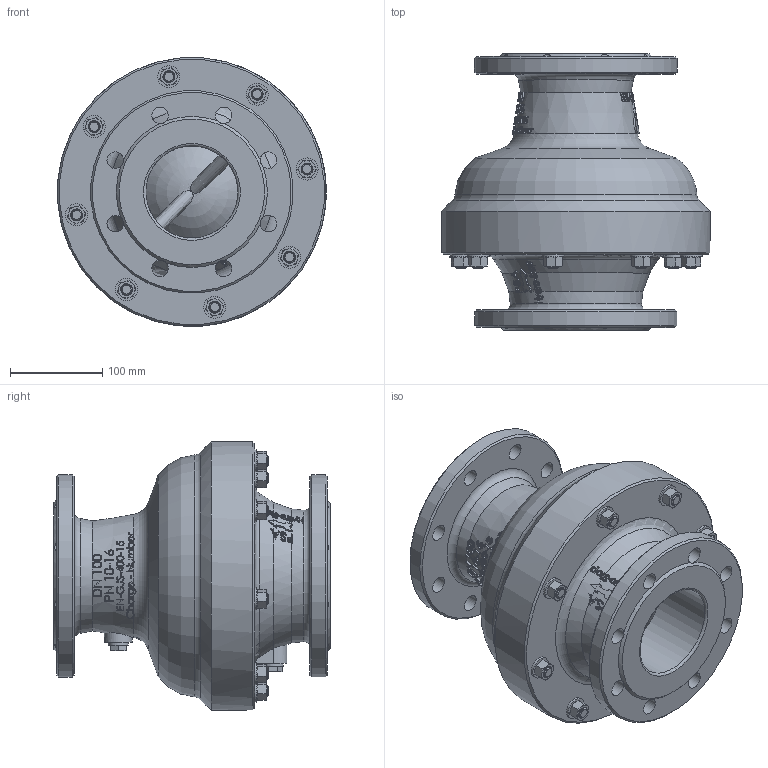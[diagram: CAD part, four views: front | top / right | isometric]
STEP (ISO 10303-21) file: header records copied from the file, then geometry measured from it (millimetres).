
FILE_DESCRIPTION(/* description */ ('PSA Hydro-Stop DN100 PN16'),/* implementation_level */ '2;1');
FILE_NAME(/* name */ 'PSA_Hydro-Stop_DN100',/* time_stamp */ '2024-10-09T15:45:50+02:00',/* author */ ('Christin-Michelle Fremgen'),/* organization */ ('PSA Wasserarmaturen GmbH'),/* preprocessor_version */ 'ST-DEVELOPER v18.104',/* originating_system */ 'Solid Edge',/* authorisation */ 'Unknown');
FILE_SCHEMA (('AUTOMOTIVE_DESIGN {1 0 10303 214 3 1 1}'));
Products named in the file (1): PSA_Hydro-Stop_DN100
Bounding box: 291.66 x 300 x 291.69 mm (x, y, z)
Volume: 8158933.8 mm3; surface area: 533297.4 mm2
Topology: 1 solids, 28 shells, 1610 faces, 4323 edges, 2855 vertices
Faces by surface type: plane 649, bspline 503, cone 305, cylinder 111, torus 39, sphere 3
Full cylindrical faces by diameter (mm): 10.072 x2, 10.2 x16, 12 x29, 13 x8, 13.98 x2, 14 x8, 14.95 x1, 16.66 x2, 18 x18, 22 x2, 23 x2, 24 x8, 30 x1, 100 x3, 220 x2, 292 x1
Entity records: 77693 total; most frequent: CARTESIAN_POINT 31800, ORIENTED_EDGE 7896, DIRECTION 5476, EDGE_CURVE 3948, VERTEX_POINT 2723, AXIS2_PLACEMENT_3D 2177, FACE_BOUND 2017, EDGE_LOOP 2014
